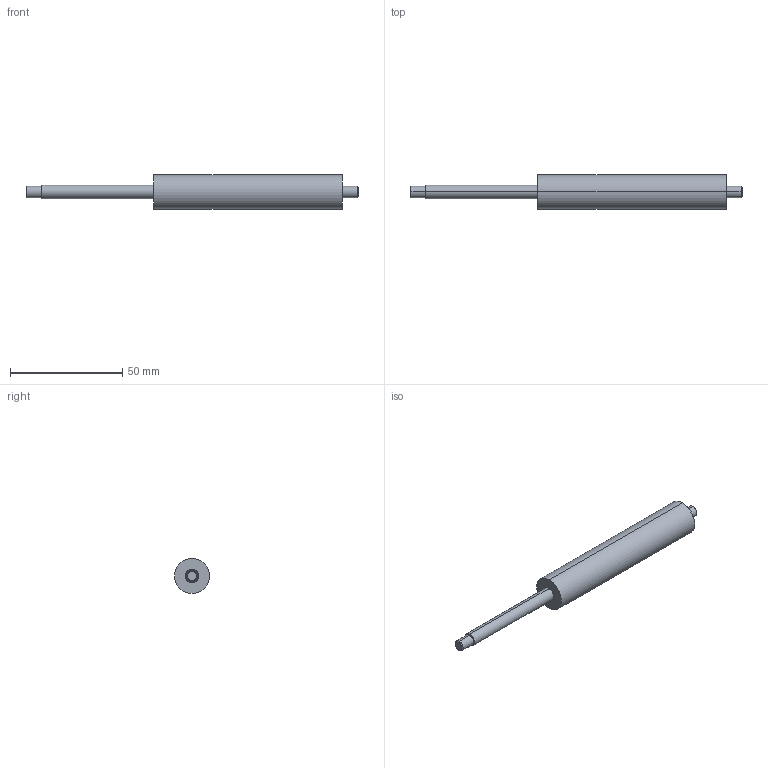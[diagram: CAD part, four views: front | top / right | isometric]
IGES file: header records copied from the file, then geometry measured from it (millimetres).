
Start section: SolidWorks IGES file using analytic representation for surfaces
Bounding box: 148 x 15.6 x 15.6 mm (x, y, z)
Surface area: 5653.6 mm2 (no closed solid volume)
Topology: 0 solids, 0 shells, 17 faces, 304 edges, 304 vertices
Faces by surface type: revolution 12, bspline 5
